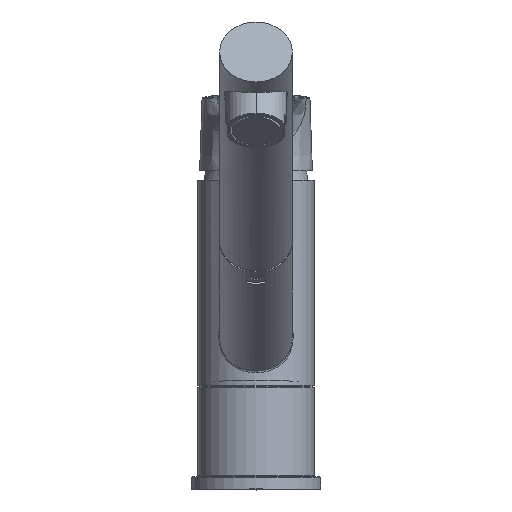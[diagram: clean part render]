
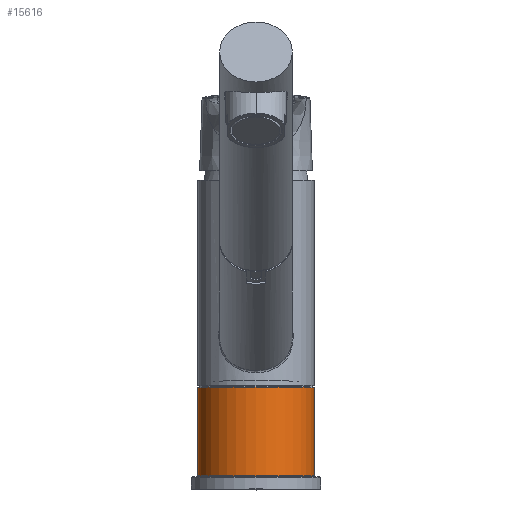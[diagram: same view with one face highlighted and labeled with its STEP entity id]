
A CAD part, top view. The second image highlights one B-rep face of the part: STEP entity #15616.
In plain terms, the highlighted cylindrical face has radius 22.5 mm (diameter 45 mm), a partial arc.
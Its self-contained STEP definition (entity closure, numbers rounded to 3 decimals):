
#15074=CARTESIAN_POINT('',(0.,3.9,0.));
#15075=DIRECTION('',(0.,1.,0.));
#15076=DIRECTION('',(-1.,0.,0.));
#15077=AXIS2_PLACEMENT_3D('',#15074,#15075,#15076);
#15079=DIRECTION('',(0.,1.,0.));
#15080=VECTOR('',#15079,34.);
#15081=CARTESIAN_POINT('',(22.5,-30.1,
0.));
#15082=LINE('',#15081,#15080);
#15083=CARTESIAN_POINT('',(0.,-30.1,0.));
#15084=DIRECTION('',(0.,1.,0.));
#15085=DIRECTION('',(-1.,0.,0.));
#15086=AXIS2_PLACEMENT_3D('',#15083,#15084,#15085);
#15088=DIRECTION('',(0.,1.,0.));
#15089=VECTOR('',#15088,34.);
#15090=CARTESIAN_POINT('',(-22.5,-30.1,
0.));
#15091=LINE('',#15090,#15089);
#15124=CARTESIAN_POINT('',(22.5,3.9,0.));
#15125=CARTESIAN_POINT('',(-22.5,3.9,0.));
#15126=VERTEX_POINT('',#15124);
#15127=VERTEX_POINT('',#15125);
#15128=CARTESIAN_POINT('',(22.5,-30.1,0.));
#15129=CARTESIAN_POINT('',(-22.5,-30.1,0.));
#15130=VERTEX_POINT('',#15128);
#15131=VERTEX_POINT('',#15129);
#15602=CARTESIAN_POINT('',(0.,-32.35,0.));
#15603=DIRECTION('',(0.,1.,0.));
#15604=DIRECTION('',(1.,0.,0.));
#15605=AXIS2_PLACEMENT_3D('',#15602,#15603,#15604);
#15606=CYLINDRICAL_SURFACE('',#15605,22.5);
#15607=ORIENTED_EDGE('',*,*,#15596,.T.);
#15609=ORIENTED_EDGE('',*,*,#15608,.F.);
#15611=ORIENTED_EDGE('',*,*,#15610,.F.);
#15613=ORIENTED_EDGE('',*,*,#15612,.T.);
#15614=EDGE_LOOP('',(#15607,#15609,#15611,#15613));
#15615=FACE_OUTER_BOUND('',#15614,.F.);
#15616=ADVANCED_FACE('',(#15615),#15606,.T.);
#15078=CIRCLE('',#15077,22.5);
#15087=CIRCLE('',#15086,22.5);
#15596=EDGE_CURVE('',#15127,#15126,#15078,.T.);
#15608=EDGE_CURVE('',#15130,#15126,#15082,.T.);
#15610=EDGE_CURVE('',#15131,#15130,#15087,.T.);
#15612=EDGE_CURVE('',#15131,#15127,#15091,.T.);
